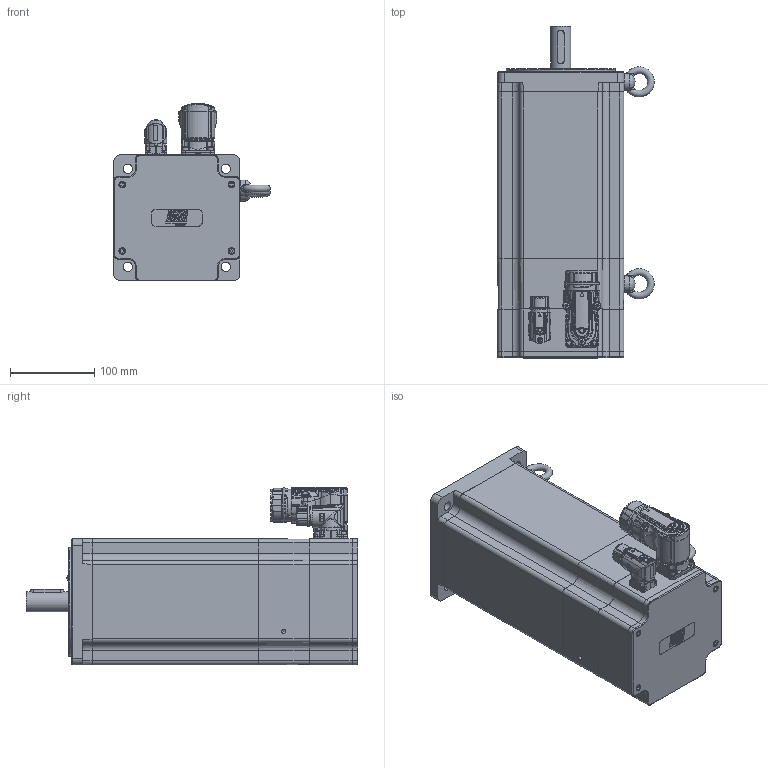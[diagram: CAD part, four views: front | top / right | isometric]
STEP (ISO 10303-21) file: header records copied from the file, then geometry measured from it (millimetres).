
FILE_DESCRIPTION(/* description */ ('Unknown'),/* implementation_level */ '2;1');
FILE_NAME(/* name */ 'TC4-150.6C.xx.x.3.A1.1.x.G3.00.00 Q0B754',/* time_stamp */ '2026-03-06T14:34:33+01:00',/* author */ ('Unknown'),/* organization */ ('Unknown'),/* preprocessor_version */ 'ST-DEVELOPER v19.4',/* originating_system */ 'Solid Edge',/* authorisation */ 'Unknown');
FILE_SCHEMA (('AUTOMOTIVE_DESIGN { 1 0 10303 214 3 1 1 }','MODEL_BASED_INTEGRATED_MANUFACTURING_SCHEMA','AUTOMOTIVE_DESIGN {1 0 10303 214 3 1 1}'));
Products named in the file (16): Q0B754 6C FRENO M1 VUOTO; 007117000452; 003155002229; 005113000600; 005321000040; 005911000252; 003003200234; 003103040225; 005911000223; Coperchio campana TC4-150; 007117000454; 005119002043; 003151003192; 005911000205; 005911000185; 003251040619
Assembly tree (28 placements, depth 2):
  Q0B754 6C FRENO M1 VUOTO
    007117000452
    003155002229
    005113000600
    005321000040  x2
    005911000252  x4
    003003200234
    003103040225
    005911000223  x4
    Coperchio campana TC4-150
    007117000454
    005119002043
    003151003192
    005911000205  x4
    005911000185  x4
    003251040619
Bounding box: 185.99 x 394.5 x 211.46 mm (x, y, z)
Volume: 2414498.7 mm3; surface area: 644306.2 mm2
Topology: 28 solids, 30 shells, 3481 faces, 8598 edges, 5304 vertices
Faces by surface type: plane 1238, bspline 758, cylinder 711, cone 332, torus 318, sphere 124
Full cylindrical faces by diameter (mm): 0.5 x1, 1 x17, 1.2 x17, 2 x4, 2.013 x4, 2.459 x2, 2.5 x4, 3 x5, 3.2 x1, 3.242 x16, 3.6 x5, 4 x11, 4.134 x8, 4.2 x1, 4.5 x9, 4.7 x4, 4.917 x12, 5 x6, 5.4 x1, 5.5 x9, 5.9 x1, 6 x3, 6.647 x2, 7 x8, 8 x7, 8.4 x1, 8.5 x4, 9 x4, 10 x5, 11 x4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
Entity records: 157383 total; most frequent: CARTESIAN_POINT 65581, ORIENTED_EDGE 14946, DIRECTION 12404, EDGE_CURVE 7473, VERTEX_POINT 4899, AXIS2_PLACEMENT_3D 4863, FACE_BOUND 4084, EDGE_LOOP 4061
